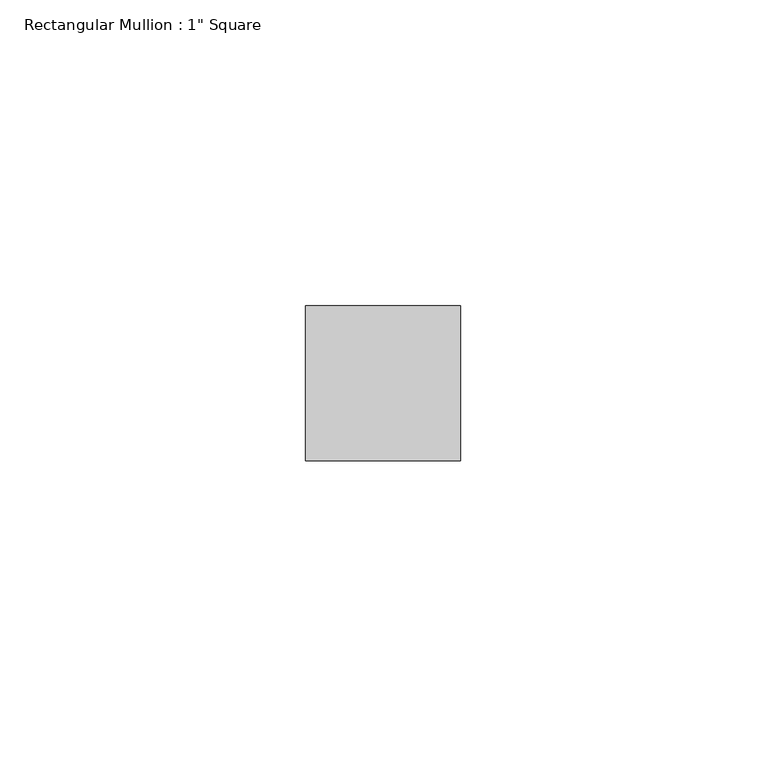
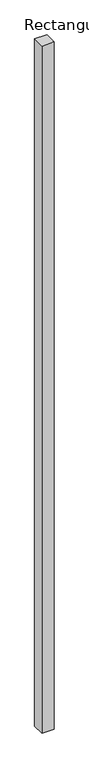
"""IFC4 building model written with IfcOpenShell, lengths in millimetres: member geometry."""

from ifc_helpers import new_model, si_unit, frame, origin, place, context, project, spatial, polyline, outline, extrude, source, transform, mapped, element, save


def member_b171f0c8(model_context):
    return source(origin(), model_context, "Body", "SweptSolid", [
        extrude(outline(polyline([(12.7, 12.7), (12.7, -12.7), (-12.7, -12.7), (-12.7, 12.7), (12.7, 12.7)])), frame((0.0, 0.0, -1501.2899186), z_axis=(0.0, 0.0, 1.0), x_axis=(1.0, 0.0, 0.0)), (0.0, 0.0, 1.0), 1501.2899186),
    ])


if __name__ == "__main__":
    model = new_model("IFC4")
    model_context = context("Model", 3, world=origin())
    ifc_project = project(units=[si_unit("LENGTHUNIT", "METRE", prefix="MILLI")], contexts=[model_context])
    site = spatial("IfcSite", under=ifc_project)
    building = spatial("IfcBuilding", under=site)
    placement = place(None, origin())
    member_shape = member_b171f0c8(model_context)
    element("IfcMember", 1, ObjectType="Rectangular Mullion : 1\" Square", at=placement, inside=building, context=model_context, shape_type="MappedRepresentation", body=[
        mapped(member_shape, transform((0.0, 0.0, 0.0), x_axis=(1.0, 0.0, 0.0), y_axis=(0.0, 1.0, 0.0), z_axis=(0.0, 0.0, 1.0))),
    ])
    save(model, "model.ifc")
